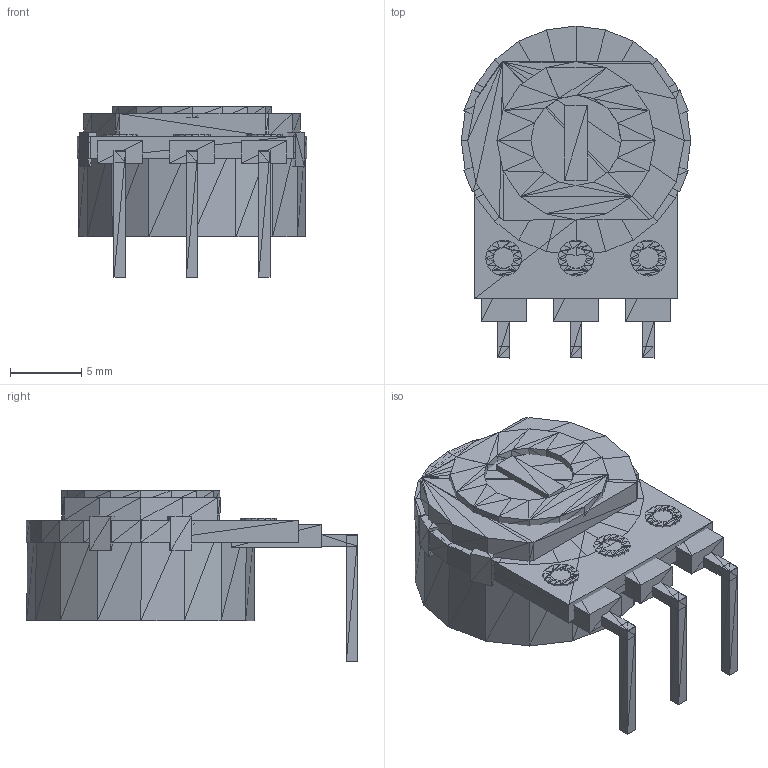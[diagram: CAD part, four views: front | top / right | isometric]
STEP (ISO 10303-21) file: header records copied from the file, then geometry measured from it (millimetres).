
FILE_DESCRIPTION(('HOOPS Exchange Step'),'2;1');
FILE_NAME('***.stp');
FILE_SCHEMA( ('AP242_MANAGED_MODEL_BASED_3D_ENGINEERING_MIM_LF {1 0 10303 442 1 1 4 }') );
Length unit declared in the file: inch
Products named in the file (23): PTRMLG_2; PTRMLG_3; PTRMLG_4; PTRMLG_5; PTRMLG_6; PTRMLG_7; PTRMLG_8; PTRMLG_9; PTRMLG_10; PTRMLG_11; PTRMLG_12; PTRMLG_13; PTRMLG_14; PTRMLG_15; PTRMLG_16; PTRMLG_17; PTRMLG_18; PTRMLG_19; PTRMLG_20; PTRMLG_21; PTRMLG_22; PTRMLG_23; PTRMLG
Assembly tree (22 placements, depth 2):
  PTRMLG
    PTRMLG_2
    PTRMLG_3
    PTRMLG_4
    PTRMLG_5
    PTRMLG_6
    PTRMLG_7
    PTRMLG_8
    PTRMLG_9
    PTRMLG_10
    PTRMLG_11
    PTRMLG_12
    PTRMLG_13
    PTRMLG_14
    PTRMLG_15
    PTRMLG_16
    PTRMLG_17
    PTRMLG_18
    PTRMLG_19
    PTRMLG_20
    PTRMLG_21
    PTRMLG_22
    PTRMLG_23
Bounding box: 16.13 x 23.33 x 12.02 mm (x, y, z)
Volume: 1299.2 mm3; surface area: 3074.9 mm2
Topology: 22 solids, 22 shells, 974 faces, 1461 edges, 523 vertices
Faces by surface type: plane 974
Entity records: 20038 total; most frequent: DIRECTION 3501, CARTESIAN_POINT 3004, ORIENTED_EDGE 2922, VECTOR 1461, LINE 1461, EDGE_CURVE 1461, AXIS2_PLACEMENT_3D 1020, PLANE 974
